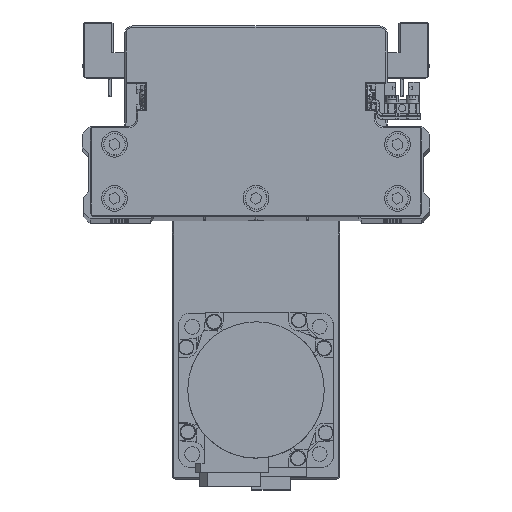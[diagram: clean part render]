
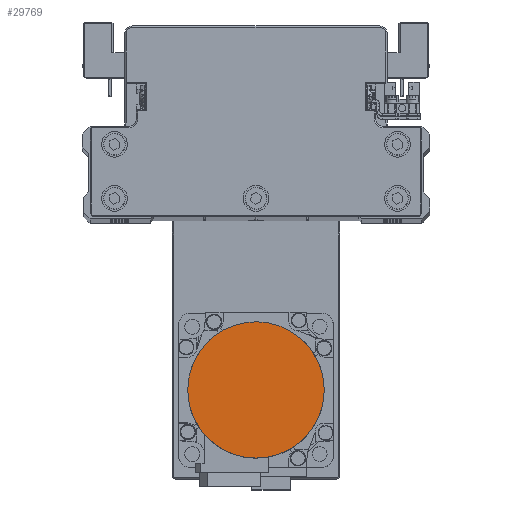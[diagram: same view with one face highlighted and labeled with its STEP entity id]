
A CAD part, top view. The second image highlights one B-rep face of the part: STEP entity #29769.
In plain terms, the highlighted planar face has unit normal (0, 0, 1) as drawn and (0, 0, -1) by its records, which use the part's own axes.
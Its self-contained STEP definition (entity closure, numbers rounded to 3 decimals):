
#61 = CARTESIAN_POINT ( 'NONE',  ( -3.469, -26.329, -109.7 ) ) ;
#259 = CARTESIAN_POINT ( 'NONE',  ( 23.819, -11.744, -109.7 ) ) ;
#642 = ORIENTED_EDGE ( 'NONE', *, *, #8788, .F. ) ;
#2812 = CARTESIAN_POINT ( 'NONE',  ( 22.998, 13.28, -109.7 ) ) ;
#3023 = CARTESIAN_POINT ( 'NONE',  ( -6.871, 25.652, -109.7 ) ) ;
#3180 = CARTESIAN_POINT ( 'NONE',  ( -11.744, -23.819, -109.7 ) ) ;
#3219 = CARTESIAN_POINT ( 'NONE',  ( -26.5, 1.734, -109.7 ) ) ;
#3373 = CARTESIAN_POINT ( 'NONE',  ( 19.965, -17.512, -109.7 ) ) ;
#3544 = EDGE_LOOP ( 'NONE', ( #642, #28695 ) ) ;
#4767 = DIRECTION ( 'NONE',  ( 1., 0., 0. ) ) ;
#5908 = CARTESIAN_POINT ( 'NONE',  ( 25.652, 6.871, -109.7 ) ) ;
#6105 = CARTESIAN_POINT ( 'NONE',  ( 1.734, 26.5, -109.7 ) ) ;
#6265 = CARTESIAN_POINT ( 'NONE',  ( -17.512, -19.965, -109.7 ) ) ;
#6309 = CARTESIAN_POINT ( 'NONE',  ( -25.147, 8.539, -109.7 ) ) ;
#6470 = CARTESIAN_POINT ( 'NONE',  ( 13.28, -22.998, -109.7 ) ) ;
#7860 = PLANE ( 'NONE',  #25052 ) ;
#8788 = EDGE_CURVE ( 'NONE', #31950, #11261, #22868, .T. ) ;
#9017 = CARTESIAN_POINT ( 'NONE',  ( 26.5, 0., -109.7 ) ) ;
#9210 = CARTESIAN_POINT ( 'NONE',  ( 8.539, 25.147, -109.7 ) ) ;
#9365 = CARTESIAN_POINT ( 'NONE',  ( -22.998, -13.28, -109.7 ) ) ;
#9408 = CARTESIAN_POINT ( 'NONE',  ( -21.07, 16.165, -109.7 ) ) ;
#9572 = CARTESIAN_POINT ( 'NONE',  ( 6.871, -25.652, -109.7 ) ) ;
#9775 = CARTESIAN_POINT ( 'NONE',  ( 26.5, -1.734, -109.7 ) ) ;
#11261 = VERTEX_POINT ( 'NONE', #11793 ) ;
#11793 = CARTESIAN_POINT ( 'NONE',  ( -26.5, 0., -109.7 ) ) ;
#12340 = CARTESIAN_POINT ( 'NONE',  ( 16.165, 21.07, -109.7 ) ) ;
#12490 = CARTESIAN_POINT ( 'NONE',  ( -25.652, -6.871, -109.7 ) ) ;
#12533 = CARTESIAN_POINT ( 'NONE',  ( -16.165, 21.07, -109.7 ) ) ;
#12683 = CARTESIAN_POINT ( 'NONE',  ( -1.734, -26.5, -109.7 ) ) ;
#12882 = CARTESIAN_POINT ( 'NONE',  ( 25.147, -8.539, -109.7 ) ) ;
#15429 = CARTESIAN_POINT ( 'NONE',  ( 21.07, 16.165, -109.7 ) ) ;
#15591 = CARTESIAN_POINT ( 'NONE',  ( -26.5, 0., -109.7 ) ) ;
#15638 = CARTESIAN_POINT ( 'NONE',  ( -8.539, 25.147, -109.7 ) ) ;
#15789 = CARTESIAN_POINT ( 'NONE',  ( -8.539, -25.147, -109.7 ) ) ;
#15831 = CARTESIAN_POINT ( 'NONE',  ( -26.5, 0., -109.7 ) ) ;
#15979 = CARTESIAN_POINT ( 'NONE',  ( 21.07, -16.165, -109.7 ) ) ;
#18536 = CARTESIAN_POINT ( 'NONE',  ( 25.147, 8.539, -109.7 ) ) ;
#18734 = CARTESIAN_POINT ( 'NONE',  ( -1.734, 26.5, -109.7 ) ) ;
#18897 = CARTESIAN_POINT ( 'NONE',  ( -16.165, -21.07, -109.7 ) ) ;
#18947 = CARTESIAN_POINT ( 'NONE',  ( -25.652, 6.871, -109.7 ) ) ;
#19095 = CARTESIAN_POINT ( 'NONE',  ( 16.165, -21.07, -109.7 ) ) ;
#20495 = CARTESIAN_POINT ( 'NONE',  ( 0., 0., -109.7 ) ) ;
#21648 = CARTESIAN_POINT ( 'NONE',  ( 26.5, 1.734, -109.7 ) ) ;
#21840 = CARTESIAN_POINT ( 'NONE',  ( 6.871, 25.652, -109.7 ) ) ;
#21992 = CARTESIAN_POINT ( 'NONE',  ( -21.07, -16.165, -109.7 ) ) ;
#22033 = CARTESIAN_POINT ( 'NONE',  ( -22.998, 13.28, -109.7 ) ) ;
#22194 = CARTESIAN_POINT ( 'NONE',  ( 8.539, -25.147, -109.7 ) ) ;
#22387 = CARTESIAN_POINT ( 'NONE',  ( 26.5, 0., -109.7 ) ) ;
#22868 = B_SPLINE_CURVE_WITH_KNOTS ( 'NONE', 3,
 ( #9017, #21648, #34276, #5908, #18536, #31156, #2812, #15429, #28064, #40712, #12340, #24954, #37601, #9210, #21840, #34479, #6105, #18734, #31361, #3023, #15638, #28272, #40906, #12533, #25148, #37797, #9408, #22033, #34676, #6309, #18947, #31575, #3219, #15831 ),
 .UNSPECIFIED., .F., .F.,
 ( 4, 2, 2, 2, 2, 2, 2, 2, 2, 2, 2, 2, 2, 2, 2, 2, 4 ),
 ( 0., 0.062, 0.125, 0.187, 0.25, 0.312, 0.375, 0.437, 0.5, 0.562, 0.625, 0.687, 0.75, 0.813, 0.875, 0.938, 1. ),
 .UNSPECIFIED. ) ;
#24954 = CARTESIAN_POINT ( 'NONE',  ( 13.28, 22.998, -109.7 ) ) ;
#25052 = AXIS2_PLACEMENT_3D ( 'NONE', #20495, #33135, #4767 ) ;
#25106 = CARTESIAN_POINT ( 'NONE',  ( -25.147, -8.539, -109.7 ) ) ;
#25148 = CARTESIAN_POINT ( 'NONE',  ( -17.512, 19.965, -109.7 ) ) ;
#25299 = CARTESIAN_POINT ( 'NONE',  ( 1.734, -26.5, -109.7 ) ) ;
#25506 = CARTESIAN_POINT ( 'NONE',  ( 25.652, -6.871, -109.7 ) ) ;
#25640 = B_SPLINE_CURVE_WITH_KNOTS ( 'NONE', 3,
 ( #15591, #28226, #40866, #12490, #25106, #37751, #9365, #21992, #34635, #6265, #18897, #31529, #3180, #15789, #28418, #61, #12683, #25299, #37953, #9572, #22194, #34842, #6470, #19095, #31721, #3373, #15979, #28614, #259, #12882, #25506, #38157, #9775, #22387 ),
 .UNSPECIFIED., .F., .F.,
 ( 4, 2, 2, 2, 2, 2, 2, 2, 2, 2, 2, 2, 2, 2, 2, 2, 4 ),
 ( 0., 0.063, 0.125, 0.188, 0.25, 0.312, 0.375, 0.437, 0.5, 0.562, 0.625, 0.687, 0.75, 0.813, 0.875, 0.938, 1. ),
 .UNSPECIFIED. ) ;
#28064 = CARTESIAN_POINT ( 'NONE',  ( 19.965, 17.512, -109.7 ) ) ;
#28226 = CARTESIAN_POINT ( 'NONE',  ( -26.5, -1.734, -109.7 ) ) ;
#28272 = CARTESIAN_POINT ( 'NONE',  ( -11.744, 23.819, -109.7 ) ) ;
#28418 = CARTESIAN_POINT ( 'NONE',  ( -6.871, -25.652, -109.7 ) ) ;
#28614 = CARTESIAN_POINT ( 'NONE',  ( 22.998, -13.28, -109.7 ) ) ;
#28695 = ORIENTED_EDGE ( 'NONE', *, *, #37653, .F. ) ;
#29769 = ADVANCED_FACE ( 'NONE', ( #36246 ), #7860, .F. ) ;
#31156 = CARTESIAN_POINT ( 'NONE',  ( 23.819, 11.744, -109.7 ) ) ;
#31361 = CARTESIAN_POINT ( 'NONE',  ( -3.469, 26.329, -109.7 ) ) ;
#31529 = CARTESIAN_POINT ( 'NONE',  ( -13.28, -22.998, -109.7 ) ) ;
#31575 = CARTESIAN_POINT ( 'NONE',  ( -26.329, 3.469, -109.7 ) ) ;
#31721 = CARTESIAN_POINT ( 'NONE',  ( 17.512, -19.965, -109.7 ) ) ;
#31950 = VERTEX_POINT ( 'NONE', #40093 ) ;
#33135 = DIRECTION ( 'NONE',  ( 0., 0., 1. ) ) ;
#34276 = CARTESIAN_POINT ( 'NONE',  ( 26.329, 3.469, -109.7 ) ) ;
#34479 = CARTESIAN_POINT ( 'NONE',  ( 3.469, 26.329, -109.7 ) ) ;
#34635 = CARTESIAN_POINT ( 'NONE',  ( -19.965, -17.512, -109.7 ) ) ;
#34676 = CARTESIAN_POINT ( 'NONE',  ( -23.819, 11.744, -109.7 ) ) ;
#34842 = CARTESIAN_POINT ( 'NONE',  ( 11.744, -23.819, -109.7 ) ) ;
#36246 = FACE_OUTER_BOUND ( 'NONE', #3544, .T. ) ;
#37601 = CARTESIAN_POINT ( 'NONE',  ( 11.744, 23.819, -109.7 ) ) ;
#37653 = EDGE_CURVE ( 'NONE', #11261, #31950, #25640, .T. ) ;
#37751 = CARTESIAN_POINT ( 'NONE',  ( -23.819, -11.744, -109.7 ) ) ;
#37797 = CARTESIAN_POINT ( 'NONE',  ( -19.965, 17.512, -109.7 ) ) ;
#37953 = CARTESIAN_POINT ( 'NONE',  ( 3.469, -26.329, -109.7 ) ) ;
#38157 = CARTESIAN_POINT ( 'NONE',  ( 26.329, -3.469, -109.7 ) ) ;
#40093 = CARTESIAN_POINT ( 'NONE',  ( 26.5, 0., -109.7 ) ) ;
#40712 = CARTESIAN_POINT ( 'NONE',  ( 17.512, 19.965, -109.7 ) ) ;
#40866 = CARTESIAN_POINT ( 'NONE',  ( -26.329, -3.469, -109.7 ) ) ;
#40906 = CARTESIAN_POINT ( 'NONE',  ( -13.28, 22.998, -109.7 ) ) ;
